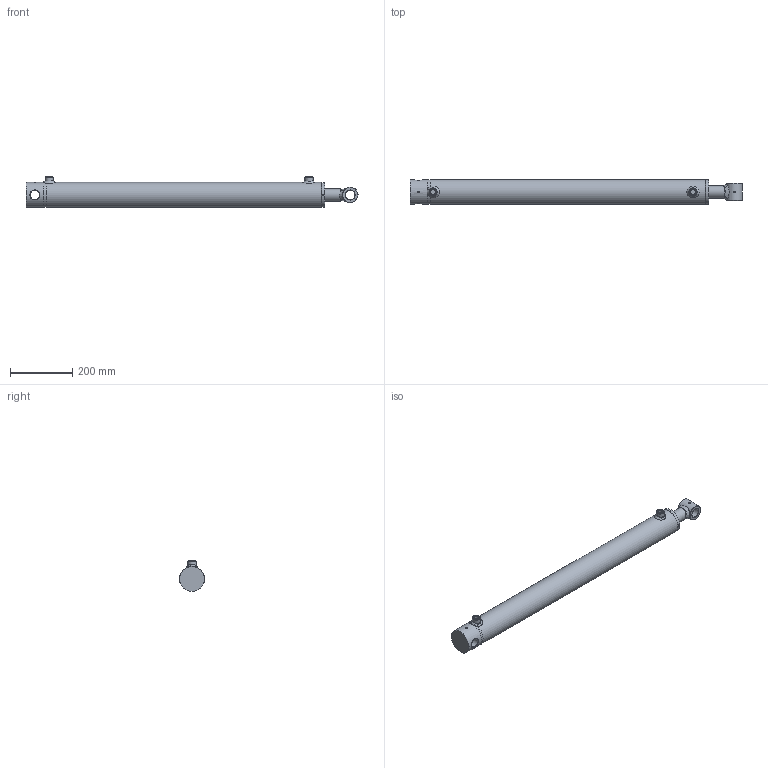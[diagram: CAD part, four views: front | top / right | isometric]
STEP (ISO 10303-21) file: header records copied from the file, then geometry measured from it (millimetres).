
FILE_DESCRIPTION( ( 'Unknown' ), '1' );
FILE_NAME( 'E:/LIBRERIA_3d/CILINDRI/HFR2S/HFR2S0700400800.stp', 'Unknown', ( 'Unknown' ), ( 'Unknown' ), 'PSStep 17.0.49', 'Unknown', ' ' );
FILE_SCHEMA( ( 'AUTOMOTIVE_DESIGN { 1 0 10303 214 1 1 1 1 }' ) );
Length unit declared in the file: millimetre
Products named in the file (21): CTBF070M24; CG08007040; STF2R0700500800-oa5; Saldatura d'angolo 1-oa3; CBS0600000; MAT_PRIMA_TUBO_FT08007000-oa4; Assem1; CFHR070030063; Saldatura con preparazione 1-oa0; Saldatura d'angolo 1-oa1; Saldatura d'angolo 2-oa2; CBF1030050055; APG0600000; SBF2R400700800; AVG3006080
Assembly tree (16 placements, depth 3):
  Saldatura d'angolo 1-oa3
  Saldatura d'angolo 1-oa3
  Assem1
    CFHR070030063
    Saldatura con preparazione 1-oa0
    Saldatura con preparazione 1-oa0
    CBS0600000
    CBF1030050055
    APG0600000  x2
    SBF2R400700800
    AVG3006080
    CG08007040
      CG08007040
    CTBF070M24
      CTBF070M24
    STF2R0700500800-oa5
      CBS0600000
      MAT_PRIMA_TUBO_FT08007000-oa4
  Saldatura d'angolo 1-oa1
  Saldatura d'angolo 1-oa1
Bounding box: 1063 x 80 x 99 mm (x, y, z)
Volume: 2769094.6 mm3; surface area: 666966.2 mm2
Topology: 19 solids, 19 shells, 258 faces, 553 edges, 339 vertices
Faces by surface type: plane 62, cylinder 61, bspline 56, cone 42, torus 37
Full cylindrical faces by diameter (mm): 5 x4, 5.5 x2, 6 x3, 7 x2, 14.95 x2, 16 x3, 16.6 x2, 22 x3, 24 x1, 25 x3, 26 x2, 29.5 x1, 30.25 x2, 40 x4, 42 x1, 43 x1, 48.6 x1, 50 x2, 58 x1, 65 x1, 66 x2, 69.4 x2, 69.9 x1, 70 x1, 70.3 x1, 70.5 x1, 70.6 x1, 71 x1, 72 x3, 72.5 x1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
Entity records: 14585 total; most frequent: CARTESIAN_POINT 8376, DIRECTION 762, ORIENTED_EDGE 666, EDGE_LOOP 422, AXIS2_PLACEMENT_3D 372, FACE_OUTER_BOUND 340, EDGE_CURVE 333, VERTEX_POINT 275
